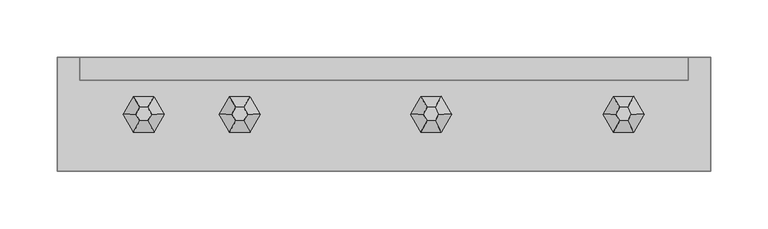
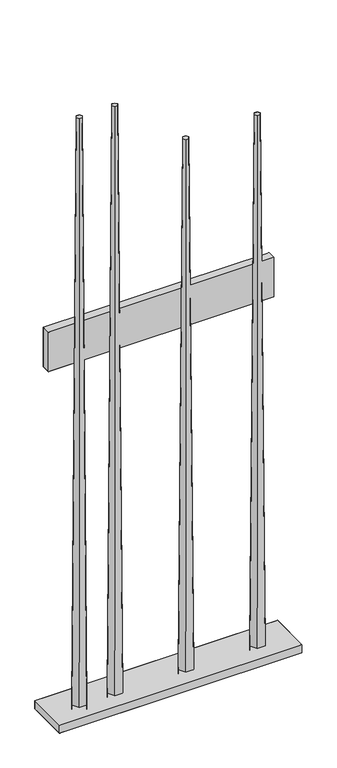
"""IFC4 building model written with IfcOpenShell, lengths in millimetres: geographic element geometry, Enscape AssetDefinition - Billiard Cue 002 Holder : Enscape AssetDefinition - Billiard Cue 002 Holder."""

from ifc_helpers import new_model, si_unit, origin, place, context, project, spatial, triangles, source, transform, mapped, element, save


def geographic_element_43f6a992(model_context):
    return source(origin(), model_context, "Body", "Tessellation", [
        triangles([(-286.39689, 0.0219994, 346.0242279), (286.5868857, -99.9751658, 366.0236249), (-286.39689, -99.9751658, 346.0242279), (-286.39689, 0.0219994, 366.0236249), (286.5868857, 0.0219994, 366.0236249), (286.5868857, 0.0219994, 346.0242279), (286.5868857, -99.9751658, 346.0242279), (-286.39689, -99.9751658, 366.0236249), (266.5874342, 0.0, 1193.2011509), (266.5874342, -19.9994333, 1193.2011509), (-266.3974385, -19.9994333, 1193.2011509), (-266.3974385, 0.0, 1291.6983364), (-266.3974385, 0.0, 1193.2011509), (-266.3974385, -19.9994333, 1291.6983364), (266.5874342, -19.9994333, 1291.6983364), (266.5874342, 0.0, 1291.6983364), (-213.9109438, -44.0007527, 1828.0981533), (-207.0091304, -55.9544153, 1828.0981533), (-203.5582146, -49.9775862, 1828.0981533), (-201.3483022, -65.7591357, 355.5689215), (-192.2365401, -49.9775862, 355.5689215), (-207.0091304, -44.0007527, 1828.0981533), (-201.3483022, -34.195033, 355.5689215), (-219.5717902, -34.195033, 355.5689215), (-228.683516, -49.9775862, 355.5689215), (-217.3618415, -49.9775862, 1828.0981533), (-213.9109438, -55.9544153, 1828.0981533), (-219.5717902, -65.7591357, 355.5689215), (-119.4656186, -49.9775862, 1828.0981533), (-122.9165162, -55.9544153, 1828.0981533), (-122.9165162, -44.0007527, 1828.0981533), (-117.2556699, -65.7591357, 355.5689215), (-108.1439441, -49.9775862, 355.5689215), (-129.8183206, -44.0007527, 1828.0981533), (-117.2556699, -34.195033, 355.5689215), (-135.4791487, -34.195033, 355.5689215), (-144.5909018, -49.9775862, 355.5689215), (-133.2692182, -49.9775862, 1828.0981533), (-129.8183206, -55.9544153, 1828.0981533), (-135.4791487, -65.7591357, 355.5689215), (44.8017303, -44.0007527, 1687.9392666), (48.2526325, -49.9775862, 1687.9392666), (59.5743115, -49.9775862, 355.5689215), (50.4625721, -65.7591357, 355.5689215), (50.4625721, -34.195033, 355.5689215), (37.9009251, -44.0007527, 1687.9392666), (32.2400901, -34.195033, 355.5689215), (23.1283462, -49.9775862, 355.5689215), (34.4500252, -49.9775862, 1687.9392666), (32.2400901, -65.7591357, 355.5689215), (37.9009251, -55.9544153, 1687.9392666), (44.8017303, -55.9544153, 1687.9392666), (213.4939635, -44.0007527, 1687.9392666), (206.59215, -44.0007527, 1687.9392666), (206.59215, -55.9544153, 1687.9392666), (213.4939635, -55.9544153, 1687.9392666), (216.9448611, -49.9775862, 1687.9392666), (228.2665174, -49.9775862, 355.5689215), (219.1547916, -34.195033, 355.5689215), (203.1412342, -49.9775862, 1687.9392666), (200.9313037, -34.195033, 355.5689215), (191.8195779, -49.9775862, 355.5689215), (200.9313037, -65.7591357, 355.5689215), (219.1547916, -65.7591357, 355.5689215)], [[63, 64, 56], [62, 63, 55], [56, 55, 63], [61, 62, 60], [55, 60, 62], [59, 61, 54], [60, 54, 61], [54, 60, 55], [54, 53, 59], [58, 59, 53], [64, 58, 57], [57, 56, 64], [53, 57, 58], [56, 57, 55], [57, 54, 55], [57, 53, 54], [50, 44, 52], [48, 50, 51], [52, 51, 50], [47, 48, 49], [51, 49, 48], [45, 47, 46], [49, 46, 47], [46, 49, 51], [46, 41, 45], [43, 45, 41], [44, 43, 42], [42, 52, 44], [41, 42, 43], [52, 42, 51], [42, 46, 51], [42, 41, 46], [40, 32, 30], [37, 40, 39], [30, 39, 40], [36, 37, 38], [39, 38, 37], [35, 36, 34], [38, 34, 36], [34, 38, 39], [34, 31, 35], [33, 35, 31], [32, 33, 29], [29, 30, 32], [31, 29, 33], [30, 29, 39], [29, 34, 39], [29, 31, 34], [28, 20, 18], [25, 28, 27], [18, 27, 28], [24, 25, 26], [27, 26, 25], [23, 24, 17], [26, 17, 24], [17, 26, 27], [17, 22, 23], [21, 23, 22], [20, 21, 19], [19, 18, 20], [22, 19, 21], [18, 19, 27], [19, 17, 27], [19, 22, 17], [15, 14, 11], [11, 10, 15], [15, 10, 9], [14, 15, 16], [9, 16, 15], [11, 14, 12], [16, 12, 14], [12, 13, 11], [10, 11, 13], [13, 9, 10], [16, 9, 13], [13, 12, 16], [5, 4, 8], [8, 2, 5], [5, 2, 7], [4, 5, 6], [7, 6, 5], [8, 4, 1], [6, 1, 4], [1, 3, 8], [2, 8, 3], [3, 7, 2], [6, 7, 3], [3, 1, 6]], closed=False),
    ])


if __name__ == "__main__":
    model = new_model("IFC4")
    model_context = context("Model", 3, world=origin())
    ifc_project = project(units=[si_unit("LENGTHUNIT", "METRE", prefix="MILLI")], contexts=[model_context])
    site = spatial("IfcSite", under=ifc_project)
    building = spatial("IfcBuilding", under=site)
    placement = place(None, origin())
    geographic_element_shape = geographic_element_43f6a992(model_context)
    element("IfcGeographicElement", 1, ObjectType="Enscape AssetDefinition - Billiard Cue 002 Holder : Enscape AssetDefinition - Billiard Cue 002 Holder", at=placement, inside=building, context=model_context, shape_type="MappedRepresentation", body=[
        mapped(geographic_element_shape, transform((0.0, 0.0, 0.0), x_axis=(1.0, 0.0, 0.0), y_axis=(0.0, 1.0, 0.0), z_axis=(0.0, 0.0, 1.0))),
    ])
    save(model, "model.ifc")
